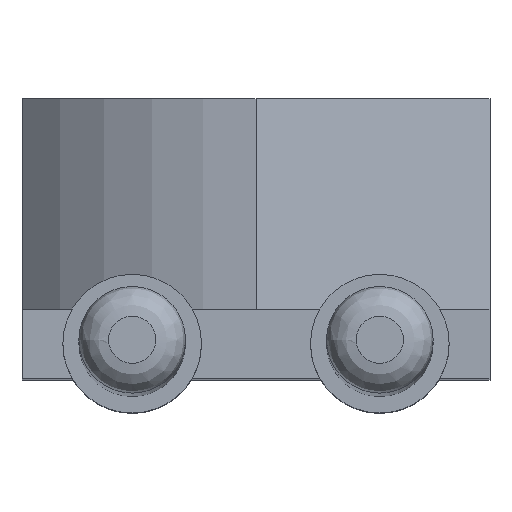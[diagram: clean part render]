
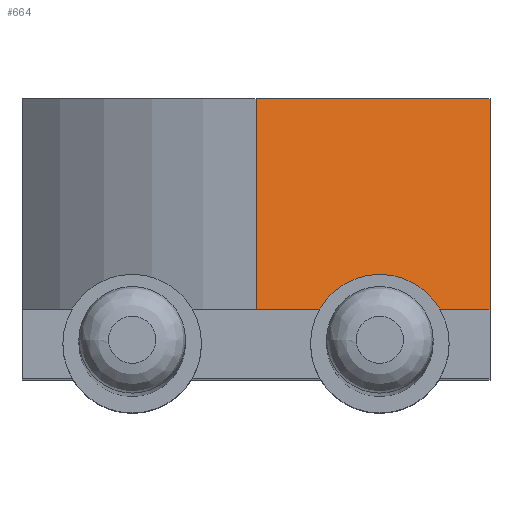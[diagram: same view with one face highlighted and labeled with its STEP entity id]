
A CAD part, top view. The second image highlights one B-rep face of the part: STEP entity #664.
In plain terms, the highlighted planar face has unit normal (0.411, 0, 0.911).
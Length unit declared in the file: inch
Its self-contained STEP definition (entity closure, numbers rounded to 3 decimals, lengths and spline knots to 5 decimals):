
#94=FACE_OUTER_BOUND('',#143,.T.);
#143=EDGE_LOOP('',(#532,#533,#534,#535));
#205=LINE('',#1075,#264);
#219=LINE('',#1101,#278);
#220=LINE('',#1104,#279);
#221=LINE('',#1105,#280);
#264=VECTOR('',#859,0.3937);
#278=VECTOR('',#885,0.3937);
#279=VECTOR('',#888,0.3937);
#280=VECTOR('',#889,0.3937);
#319=VERTEX_POINT('',#1072);
#320=VERTEX_POINT('',#1074);
#326=VERTEX_POINT('',#1098);
#327=VERTEX_POINT('',#1103);
#385=EDGE_CURVE('',#319,#320,#205,.T.);
#399=EDGE_CURVE('',#326,#320,#219,.T.);
#400=EDGE_CURVE('',#326,#327,#220,.T.);
#401=EDGE_CURVE('',#327,#319,#221,.T.);
#532=ORIENTED_EDGE('',*,*,#400,.F.);
#533=ORIENTED_EDGE('',*,*,#399,.T.);
#534=ORIENTED_EDGE('',*,*,#385,.F.);
#535=ORIENTED_EDGE('',*,*,#401,.F.);
#628=PLANE('',#737);
#664=ADVANCED_FACE('',(#94),#628,.T.);
#737=AXIS2_PLACEMENT_3D('',#1102,#886,#887);
#859=DIRECTION('',(0.911,0.,-0.411));
#885=DIRECTION('',(0.,1.,0.));
#886=DIRECTION('center_axis',(0.411,0.,0.911));
#887=DIRECTION('ref_axis',(0.911,0.,-0.411));
#888=DIRECTION('',(-0.911,0.,0.411));
#889=DIRECTION('',(0.,1.,0.));
#1072=CARTESIAN_POINT('',(0.,0.14161,0.12));
#1074=CARTESIAN_POINT('',(0.11811,0.14161,0.06668));
#1075=CARTESIAN_POINT('',(0.11811,0.14161,0.06668));
#1098=CARTESIAN_POINT('',(0.11811,0.035,0.06668));
#1101=CARTESIAN_POINT('',(0.11811,0.035,0.06668));
#1102=CARTESIAN_POINT('Origin',(0.,0.035,0.12));
#1103=CARTESIAN_POINT('',(0.,0.035,0.12));
#1104=CARTESIAN_POINT('',(0.11811,0.035,0.06668));
#1105=CARTESIAN_POINT('',(0.,0.035,0.12));
